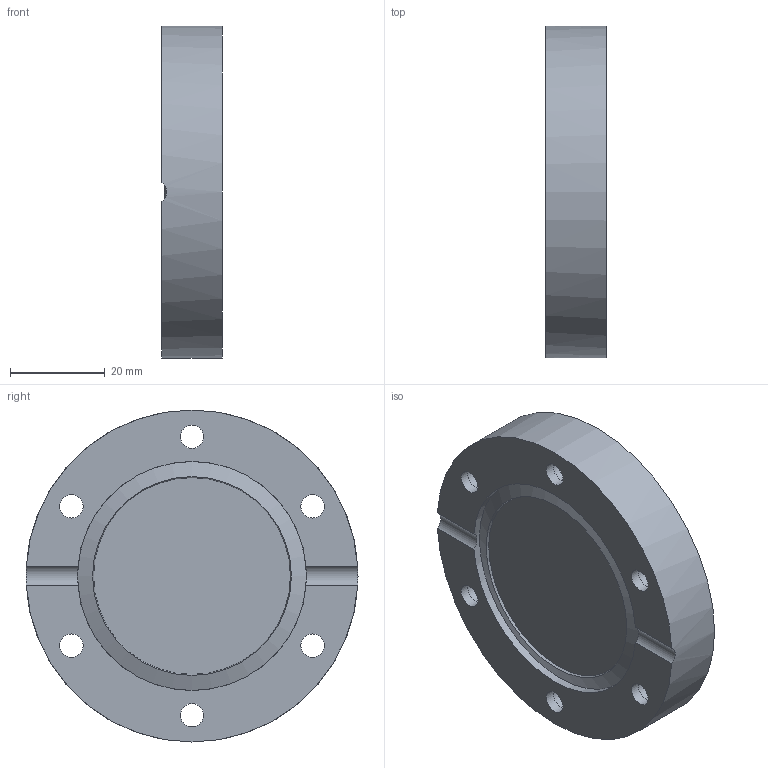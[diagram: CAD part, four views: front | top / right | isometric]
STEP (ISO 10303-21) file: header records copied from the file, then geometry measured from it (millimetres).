
FILE_DESCRIPTION( ( 'Unknown' ), '1' );
FILE_NAME( 'X:/Daten ( aktueller Bestand )/Projekte und Zeichnungen/Solid Edge/STP-Dateien/CF-Teile/7422R.stp', 'Unknown', ( 'Unknown' ), ( 'Unknown' ), 'PSStep 14.0', 'Unknown', ' ' );
FILE_SCHEMA( ( 'AUTOMOTIVE_DESIGN { 1 0 10303 214 1 1 1 1 }' ) );
Length unit declared in the file: millimetre
Products named in the file (3): Assem1; 7422R-1; 7422R-2
Assembly tree (2 placements, depth 2):
  Assem1
    7422R-1
    7422R-2
Bounding box: 12.7 x 70 x 70 mm (x, y, z)
Volume: 38137.6 mm3; surface area: 15087.3 mm2
Topology: 2 solids, 2 shells, 26 faces, 64 edges, 42 vertices
Faces by surface type: cylinder 18, plane 6, cone 2
Full cylindrical faces by diameter (mm): 4.917 x12, 42.4 x1, 48.3 x2, 70 x1
Entity records: 970 total; most frequent: CARTESIAN_POINT 169, DIRECTION 122, ORIENTED_EDGE 76, AXIS2_PLACEMENT_3D 59, EDGE_LOOP 58, FACE_OUTER_BOUND 42, EDGE_CURVE 38, VERTEX_POINT 34
